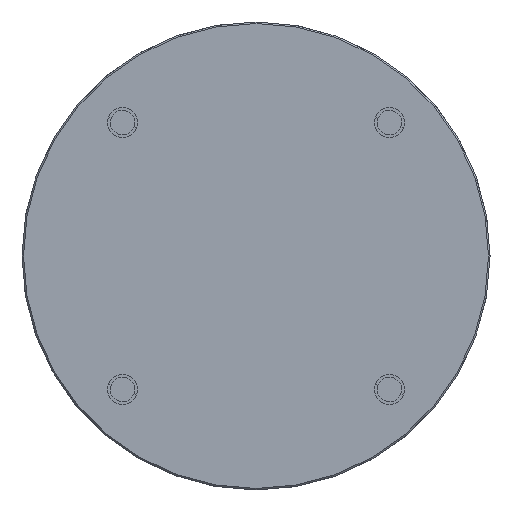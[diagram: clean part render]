
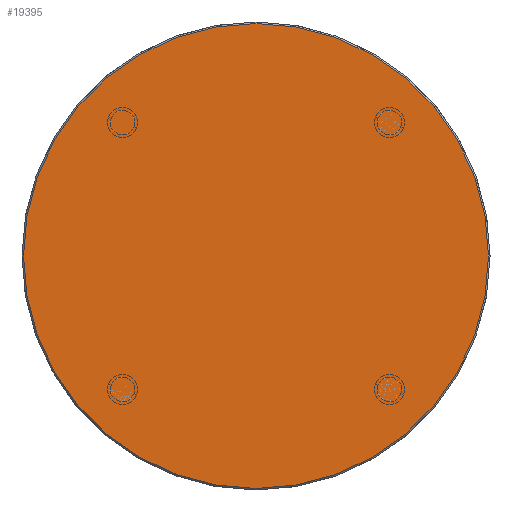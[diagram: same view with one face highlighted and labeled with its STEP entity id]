
A CAD part, left-side view. The second image highlights one B-rep face of the part: STEP entity #19395.
In plain terms, the highlighted planar face has unit normal (-1, 0, 0).
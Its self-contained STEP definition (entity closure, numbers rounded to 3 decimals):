
#611 = EDGE_CURVE ( 'NONE', #6085, #6023, #6596, .T. ) ;
#1275 = EDGE_LOOP ( 'NONE', ( #4246, #4283 ) ) ;
#1805 = DIRECTION ( 'NONE',  ( 0., 0., -1. ) ) ;
#1834 = DIRECTION ( 'NONE',  ( -1., 0., 0. ) ) ;
#1905 = CARTESIAN_POINT ( 'NONE',  ( -64.307, -3.842, -3.003 ) ) ;
#4246 = ORIENTED_EDGE ( 'NONE', *, *, #611, .T. ) ;
#4283 = ORIENTED_EDGE ( 'NONE', *, *, #27797, .T. ) ;
#5904 = AXIS2_PLACEMENT_3D ( 'NONE', #1905, #1834, #1805 ) ;
#6023 = VERTEX_POINT ( 'NONE', #13169 ) ;
#6085 = VERTEX_POINT ( 'NONE', #13268 ) ;
#6596 = CIRCLE ( 'NONE', #5904, 30.8 ) ;
#9707 = AXIS2_PLACEMENT_3D ( 'NONE', #10755, #10760, #10761 ) ;
#10755 = CARTESIAN_POINT ( 'NONE',  ( -64.307, 27.158, -3.003 ) ) ;
#10757 = PLANE ( 'NONE',  #9707 ) ;
#10760 = DIRECTION ( 'NONE',  ( 1., 0., 0. ) ) ;
#10761 = DIRECTION ( 'NONE',  ( 0., 0., -1. ) ) ;
#12057 = AXIS2_PLACEMENT_3D ( 'NONE', #17084, #17086, #17088 ) ;
#13169 = CARTESIAN_POINT ( 'NONE',  ( -64.307, -3.842, 27.797 ) ) ;
#13268 = CARTESIAN_POINT ( 'NONE',  ( -64.307, -3.842, -33.803 ) ) ;
#15695 = CIRCLE ( 'NONE', #12057, 30.8 ) ;
#17084 = CARTESIAN_POINT ( 'NONE',  ( -64.307, -3.842, -3.003 ) ) ;
#17086 = DIRECTION ( 'NONE',  ( -1., 0., 0. ) ) ;
#17088 = DIRECTION ( 'NONE',  ( 0., 0., -1. ) ) ;
#19395 = ADVANCED_FACE ( 'NONE', ( #23044 ), #10757, .F. ) ;
#23044 = FACE_OUTER_BOUND ( 'NONE', #1275, .T. ) ;
#27797 = EDGE_CURVE ( 'NONE', #6023, #6085, #15695, .T. ) ;
